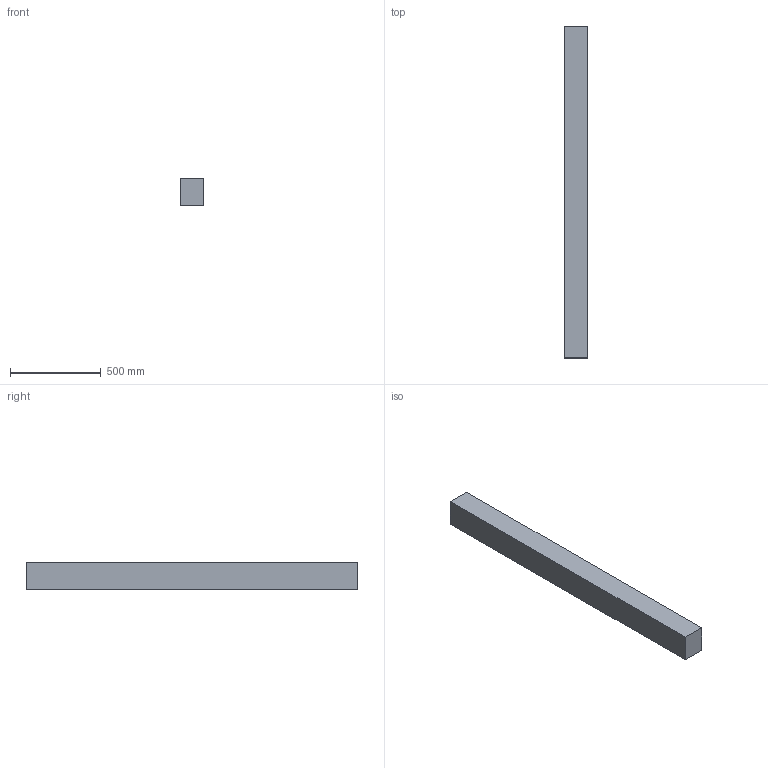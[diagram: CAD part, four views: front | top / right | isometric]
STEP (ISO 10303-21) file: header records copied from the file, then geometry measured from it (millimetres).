
FILE_DESCRIPTION(/* description */ (''),/* implementation_level */ '2;1');
FILE_NAME(/* name */ '5x6x72',/* time_stamp */ '2024-09-20T11:46:19-05:00',/* author */ (''),/* organization */ (''),/* preprocessor_version */ 'ST-DEVELOPER v19.2',/* originating_system */ 'Rhino 8.5',/* authorisation */ '');
FILE_SCHEMA (('CONFIG_CONTROL_DESIGN'));
Length unit declared in the file: inch
Products named in the file (1): Document
Bounding box: 127 x 1828.8 x 152.4 mm (x, y, z)
Volume: 35396058.2 mm3; surface area: 1060643 mm2
Topology: 1 solids, 1 shells, 6 faces, 12 edges, 8 vertices
Faces by surface type: plane 6
Entity records: 226 total; most frequent: CARTESIAN_POINT 40, ORIENTED_EDGE 24, EDGE_CURVE 12, B_SPLINE_CURVE_WITH_KNOTS 12, DIRECTION 10, VERTEX_POINT 8, AXIS2_PLACEMENT_3D 8, ORGANIZATION 7
